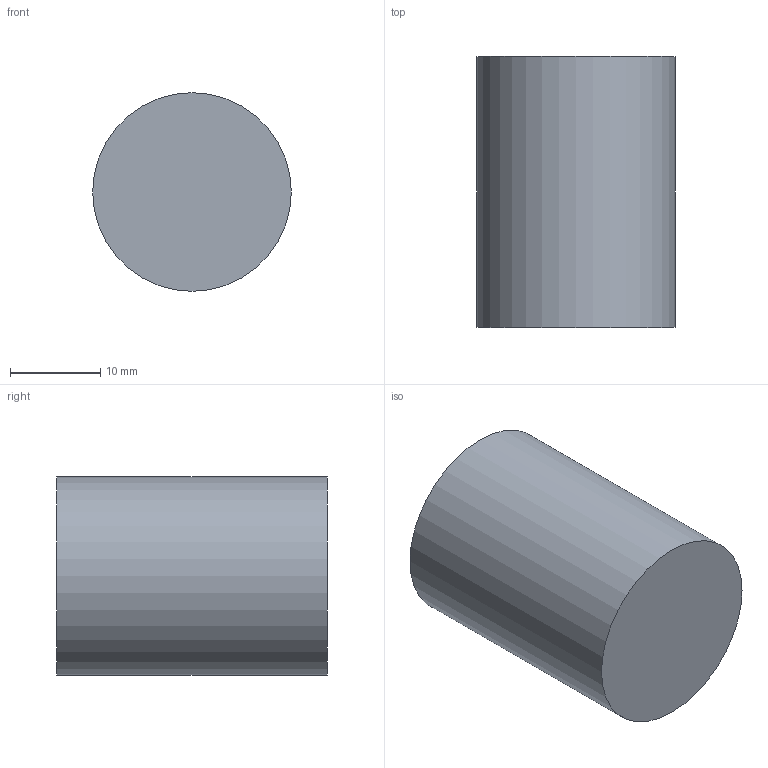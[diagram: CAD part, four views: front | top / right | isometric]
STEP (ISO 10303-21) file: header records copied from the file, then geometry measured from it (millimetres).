
FILE_DESCRIPTION(('Open CASCADE Model'),'2;1');
FILE_NAME('Open CASCADE Shape Model','2026-10-21T10:33:18',('Author'),( 'Open CASCADE'),'Open CASCADE STEP processor 7.9','Open CASCADE 7.9' ,'Unknown');
FILE_SCHEMA(('AUTOMOTIVE_DESIGN { 1 0 10303 214 1 1 1 1 }'));
Length unit declared in the file: millimetre
Products named in the file (1): Open CASCADE STEP translator 7.9 17
Bounding box: 22 x 30 x 22 mm (x, y, z)
Volume: 11404 mm3; surface area: 2833.7 mm2
Topology: 1 solids, 1 shells, 3 faces, 3 edges, 2 vertices
Faces by surface type: plane 2, cylinder 1
Full cylindrical faces by diameter (mm): 22 x1
Entity records: 108 total; most frequent: DIRECTION 19, CARTESIAN_POINT 15, AXIS2_PLACEMENT_3D 6, ORIENTED_EDGE 6, PCURVE 6, DEFINITIONAL_REPRESENTATION 6, LINE 5, VECTOR 5
